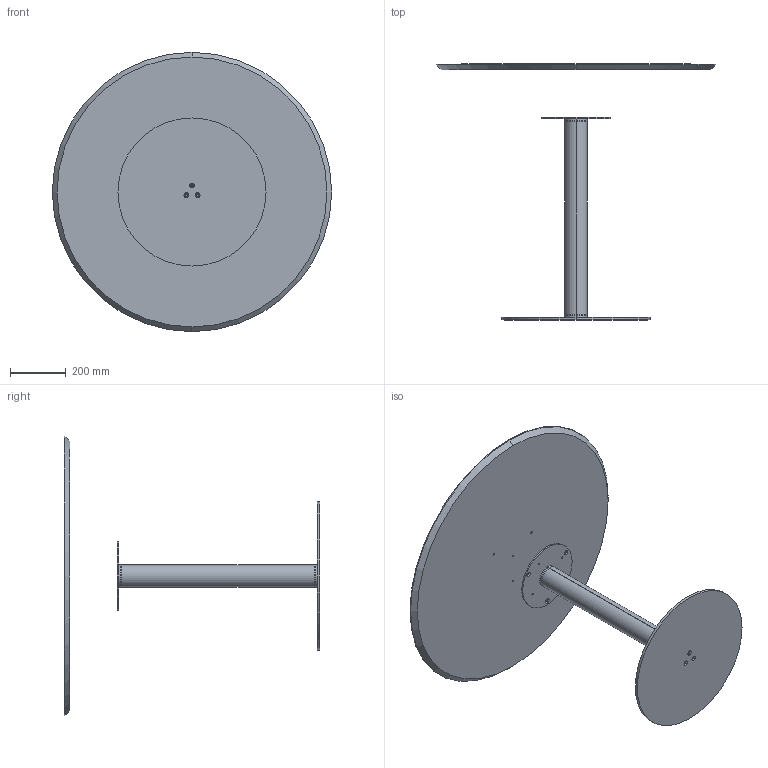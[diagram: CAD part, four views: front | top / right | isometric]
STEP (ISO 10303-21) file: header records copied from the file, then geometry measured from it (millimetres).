
FILE_DESCRIPTION (( 'STEP AP203' ), '1' );
FILE_NAME ('CB35W.STEP', '2024-08-08T08:28:09', ( '' ), ( '' ), 'SwSTEP 2.0', 'SolidWorks 2022', '' );
FILE_SCHEMA (( 'CONFIG_CONTROL_DESIGN' ));
Length unit declared in the file: millimetre
Products named in the file (5): CBS000000COL-00-CILINDRO BISTRO COLONNA H75; CBS000000BAS-00-BISTRO PIASTRA INFERIORE_D.530; CB35W; W1XCMXX-00-Piani Rotondi legno_D.1000 SP.20cm; CBS200000PST-00-CONTROPIASTRA PER PIASTRA D.25cm GREZZO_250
Assembly tree (4 placements, depth 2):
  CB35W
    CBS000000BAS-00-BISTRO PIASTRA INFERIORE_D.530
    CBS200000PST-00-CONTROPIASTRA PER PIASTRA D.25cm GREZZO_250
    CBS000000COL-00-CILINDRO BISTRO COLONNA H75
    W1XCMXX-00-Piani Rotondi legno_D.1000 SP.20cm
Bounding box: 1000 x 915.94 x 1000 mm (x, y, z)
Volume: 18093072.7 mm3; surface area: 2532827.2 mm2
Topology: 6 solids, 6 shells, 110 faces, 258 edges, 156 vertices
Faces by surface type: cylinder 62, cone 36, plane 12
Entity records: 3733 total; most frequent: DIRECTION 636, CARTESIAN_POINT 523, ORIENTED_EDGE 500, AXIS2_PLACEMENT_3D 269, EDGE_CURVE 250, EDGE_LOOP 156, VERTEX_POINT 156, CIRCLE 152
